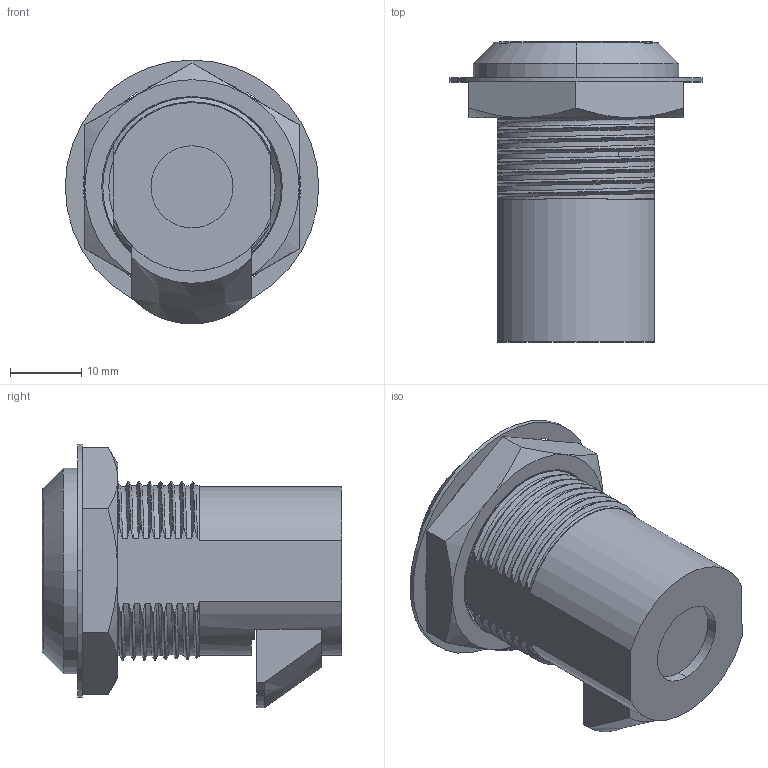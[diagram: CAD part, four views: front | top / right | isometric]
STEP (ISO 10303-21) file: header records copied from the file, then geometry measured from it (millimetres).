
FILE_DESCRIPTION (( 'STEP AP214' ), '1' );
FILE_NAME ('2.611.001.STEP', '2016-08-16T06:33:04', ( 'RST-Dolba' ), ( '' ), 'SwSTEP 2.0', 'SolidWorks 2015', '' );
FILE_SCHEMA (( 'AUTOMOTIVE_DESIGN' ));
Length unit declared in the file: millimetre
Products named in the file (7): 2.611.001; MS825-LUOMU; M25-ZIQUAN; MS825-SUOSHE; L2D0161-ZU_ASM; L2D0161-SUOXIN; MS825-JIZUO
Assembly tree (6 placements, depth 3):
  2.611.001
    MS825-JIZUO
    L2D0161-ZU_ASM
      L2D0161-SUOXIN
    MS825-SUOSHE
    M25-ZIQUAN
    MS825-LUOMU
Bounding box: 35.5 x 42 x 36.95 mm (x, y, z)
Volume: 15949.5 mm3; surface area: 13909.2 mm2
Topology: 4 solids, 6 shells, 418 faces, 1218 edges, 806 vertices
Faces by surface type: plane 182, cylinder 132, bspline 85, cone 13, torus 4, sphere 2
Entity records: 37743 total; most frequent: CARTESIAN_POINT 24469, ORIENTED_EDGE 2432, DIRECTION 1815, EDGE_CURVE 1218, VERTEX_POINT 806, AXIS2_PLACEMENT_3D 616, VECTOR 583, LINE 583
